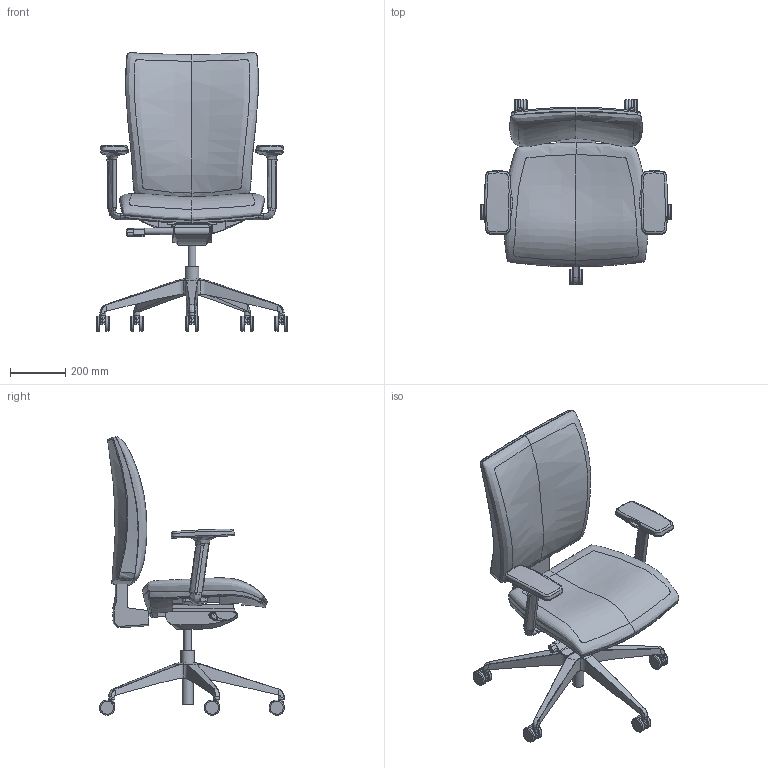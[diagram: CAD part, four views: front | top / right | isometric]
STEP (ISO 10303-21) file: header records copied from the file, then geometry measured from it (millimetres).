
FILE_DESCRIPTION(/* description */ (''),/* implementation_level */ '2;1');
FILE_NAME(/* name */ 'Lyra 235-AT',/* time_stamp */ '2018-10-22T20:13:57+02:00',/* author */ (''),/* organization */ (''),/* preprocessor_version */ 'ST-DEVELOPER v16.5',/* originating_system */ '',/* authorisation */ '');
FILE_SCHEMA (('AUTOMOTIVE_DESIGN'));
Length unit declared in the file: millimetre
Products named in the file (1): Document
Bounding box: 690.82 x 668.7 x 1007.3 mm (x, y, z)
Volume: 6223799.8 mm3; surface area: 2085400.3 mm2
Topology: 21 solids, 46 shells, 476 faces, 1102 edges, 672 vertices
Faces by surface type: bspline 341, plane 135
Entity records: 33639 total; most frequent: CARTESIAN_POINT 26923, ORIENTED_EDGE 2082, EDGE_CURVE 1084, VERTEX_POINT 666, B_SPLINE_CURVE_WITH_KNOTS 637, ADVANCED_FACE 476, FACE_OUTER_BOUND 476, EDGE_LOOP 476
